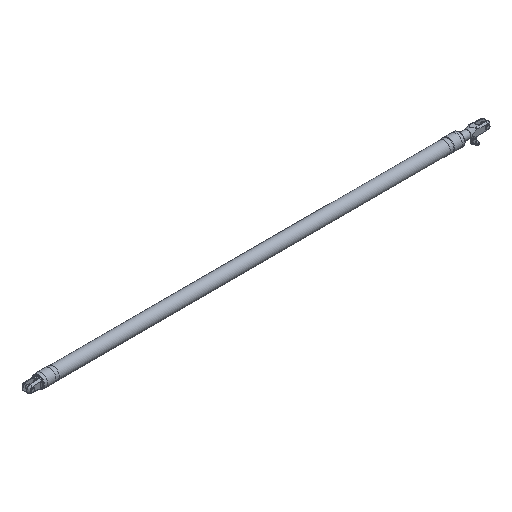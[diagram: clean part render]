
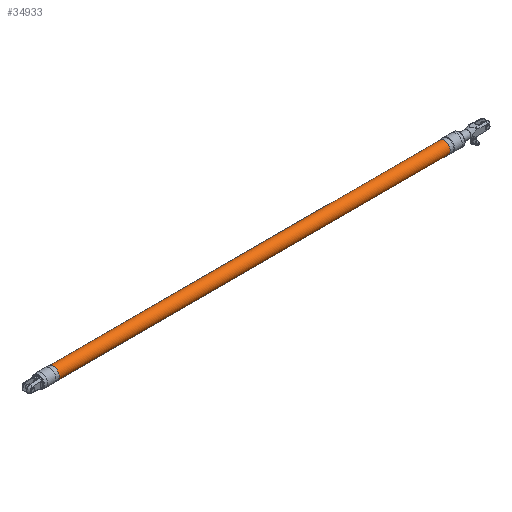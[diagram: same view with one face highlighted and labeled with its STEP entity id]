
A CAD part, isometric view. The second image highlights one B-rep face of the part: STEP entity #34933.
In plain terms, the highlighted cylindrical face has radius 29.2 mm (diameter 58.4 mm), a full revolution.
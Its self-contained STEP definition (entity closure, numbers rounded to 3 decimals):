
#3595=FACE_OUTER_BOUND('',#5443,.T.);
#5443=EDGE_LOOP('',(#30495,#30496,#30497,#30498,#30499,#30500));
#7264=CIRCLE('',#36496,29.2);
#7265=CIRCLE('',#36497,29.2);
#7267=CIRCLE('',#36500,29.2);
#7268=CIRCLE('',#36501,29.2);
#10177=LINE('',#64809,#13169);
#13169=VECTOR('',#42324,29.2);
#16408=VERTEX_POINT('',#64801);
#16409=VERTEX_POINT('',#64803);
#16410=VERTEX_POINT('',#64808);
#16411=VERTEX_POINT('',#64810);
#21187=EDGE_CURVE('',#16409,#16408,#7264,.T.);
#21188=EDGE_CURVE('',#16408,#16409,#7265,.T.);
#21190=EDGE_CURVE('',#16408,#16410,#10177,.T.);
#21191=EDGE_CURVE('',#16411,#16410,#7267,.T.);
#21192=EDGE_CURVE('',#16410,#16411,#7268,.T.);
#30495=ORIENTED_EDGE('',*,*,#21187,.T.);
#30496=ORIENTED_EDGE('',*,*,#21190,.T.);
#30497=ORIENTED_EDGE('',*,*,#21191,.F.);
#30498=ORIENTED_EDGE('',*,*,#21192,.F.);
#30499=ORIENTED_EDGE('',*,*,#21190,.F.);
#30500=ORIENTED_EDGE('',*,*,#21188,.T.);
#31590=CYLINDRICAL_SURFACE('',#36499,29.2);
#34933=ADVANCED_FACE('',(#3595),#31590,.T.);
#36496=AXIS2_PLACEMENT_3D('',#64804,#42316,#42317);
#36497=AXIS2_PLACEMENT_3D('',#64805,#42318,#42319);
#36499=AXIS2_PLACEMENT_3D('',#64807,#42322,#42323);
#36500=AXIS2_PLACEMENT_3D('',#64811,#42325,#42326);
#36501=AXIS2_PLACEMENT_3D('',#64812,#42327,#42328);
#42316=DIRECTION('center_axis',(-1.,0.,0.));
#42317=DIRECTION('ref_axis',(0.,0.,1.));
#42318=DIRECTION('center_axis',(-1.,0.,0.));
#42319=DIRECTION('ref_axis',(0.,0.,1.));
#42322=DIRECTION('center_axis',(-1.,0.,0.));
#42323=DIRECTION('ref_axis',(0.,0.,-1.));
#42324=DIRECTION('',(-1.,0.,0.));
#42325=DIRECTION('center_axis',(-1.,0.,0.));
#42326=DIRECTION('ref_axis',(0.,0.,1.));
#42327=DIRECTION('center_axis',(-1.,0.,0.));
#42328=DIRECTION('ref_axis',(0.,0.,1.));
#64801=CARTESIAN_POINT('',(1966.998,0.,29.2));
#64803=CARTESIAN_POINT('',(1966.998,0.,-29.2));
#64804=CARTESIAN_POINT('Origin',(1966.998,0.,0.));
#64805=CARTESIAN_POINT('Origin',(1966.998,0.,0.));
#64807=CARTESIAN_POINT('Origin',(1019.7,0.,0.));
#64808=CARTESIAN_POINT('',(72.402,0.,29.2));
#64809=CARTESIAN_POINT('',(1019.7,0.,29.2));
#64810=CARTESIAN_POINT('',(72.402,0.,-29.2));
#64811=CARTESIAN_POINT('Origin',(72.402,0.,0.));
#64812=CARTESIAN_POINT('Origin',(72.402,0.,0.));
